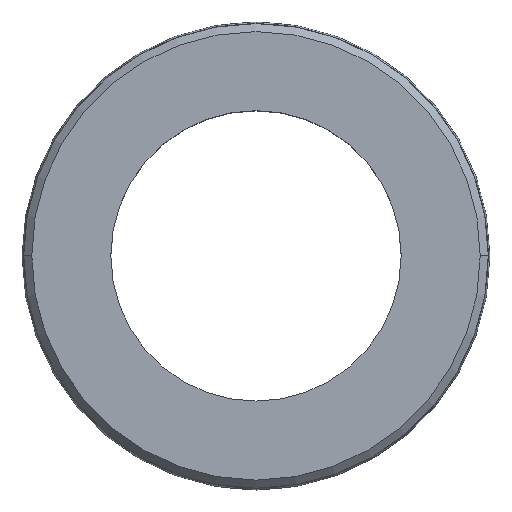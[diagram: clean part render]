
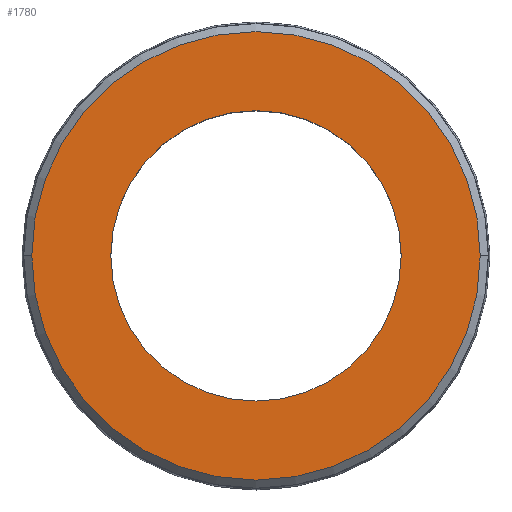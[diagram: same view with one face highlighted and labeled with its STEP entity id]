
A CAD part, top view. The second image highlights one B-rep face of the part: STEP entity #1780.
In plain terms, the highlighted planar face has unit normal (0, 0, 1).
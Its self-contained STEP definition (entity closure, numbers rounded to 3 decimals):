
#33 = DIRECTION ( 'NONE',  ( 0., 0., -1. ) ) ;
#47 = EDGE_LOOP ( 'NONE', ( #949, #2054 ) ) ;
#49 = DIRECTION ( 'NONE',  ( 1., 0., 0. ) ) ;
#95 = CARTESIAN_POINT ( 'NONE',  ( -13.9, 0., 4.8 ) ) ;
#242 = CIRCLE ( 'NONE', #2169, 13.9 ) ;
#413 = EDGE_CURVE ( 'NONE', #1560, #1421, #1722, .T. ) ;
#493 = EDGE_CURVE ( 'NONE', #1946, #1507, #1730, .T. ) ;
#671 = EDGE_CURVE ( 'NONE', #1507, #1946, #1403, .T. ) ;
#689 = CARTESIAN_POINT ( 'NONE',  ( -14.4, 0., 4.8 ) ) ;
#720 = EDGE_CURVE ( 'NONE', #1421, #1560, #242, .T. ) ;
#780 = FACE_OUTER_BOUND ( 'NONE', #47, .T. ) ;
#949 = ORIENTED_EDGE ( 'NONE', *, *, #413, .T. ) ;
#1011 = EDGE_LOOP ( 'NONE', ( #1693, #1702 ) ) ;
#1324 = CARTESIAN_POINT ( 'NONE',  ( 9., 0., 4.8 ) ) ;
#1389 = DIRECTION ( 'NONE',  ( -1., 0., 0. ) ) ;
#1394 = DIRECTION ( 'NONE',  ( 0., 0., 1. ) ) ;
#1398 = CARTESIAN_POINT ( 'NONE',  ( 0., 0., 4.8 ) ) ;
#1403 = CIRCLE ( 'NONE', #2201, 9. ) ;
#1404 = DIRECTION ( 'NONE',  ( 1., 0., 0. ) ) ;
#1405 = DIRECTION ( 'NONE',  ( 0., 0., -1. ) ) ;
#1408 = CARTESIAN_POINT ( 'NONE',  ( 0., 0., 4.8 ) ) ;
#1421 = VERTEX_POINT ( 'NONE', #2279 ) ;
#1507 = VERTEX_POINT ( 'NONE', #1324 ) ;
#1512 = DIRECTION ( 'NONE',  ( -1., 0., 0. ) ) ;
#1513 = DIRECTION ( 'NONE',  ( 0., 0., 1. ) ) ;
#1518 = CARTESIAN_POINT ( 'NONE',  ( 0., 0., 4.8 ) ) ;
#1519 = PLANE ( 'NONE',  #2055 ) ;
#1556 = CARTESIAN_POINT ( 'NONE',  ( -9., 0., 4.8 ) ) ;
#1560 = VERTEX_POINT ( 'NONE', #95 ) ;
#1693 = ORIENTED_EDGE ( 'NONE', *, *, #671, .T. ) ;
#1702 = ORIENTED_EDGE ( 'NONE', *, *, #493, .T. ) ;
#1722 = CIRCLE ( 'NONE', #2695, 13.9 ) ;
#1730 = CIRCLE ( 'NONE', #2597, 9. ) ;
#1780 = ADVANCED_FACE ( 'NONE', ( #2541, #780 ), #1519, .T. ) ;
#1946 = VERTEX_POINT ( 'NONE', #1556 ) ;
#2054 = ORIENTED_EDGE ( 'NONE', *, *, #720, .T. ) ;
#2055 = AXIS2_PLACEMENT_3D ( 'NONE', #689, #2337, #2306 ) ;
#2169 = AXIS2_PLACEMENT_3D ( 'NONE', #1398, #1394, #1389 ) ;
#2201 = AXIS2_PLACEMENT_3D ( 'NONE', #1408, #1405, #1404 ) ;
#2279 = CARTESIAN_POINT ( 'NONE',  ( 13.9, 0., 4.8 ) ) ;
#2306 = DIRECTION ( 'NONE',  ( 1., 0., 0. ) ) ;
#2337 = DIRECTION ( 'NONE',  ( 0., 0., 1. ) ) ;
#2488 = CARTESIAN_POINT ( 'NONE',  ( 0., 0., 4.8 ) ) ;
#2541 = FACE_BOUND ( 'NONE', #1011, .T. ) ;
#2597 = AXIS2_PLACEMENT_3D ( 'NONE', #2488, #33, #49 ) ;
#2695 = AXIS2_PLACEMENT_3D ( 'NONE', #1518, #1513, #1512 ) ;
